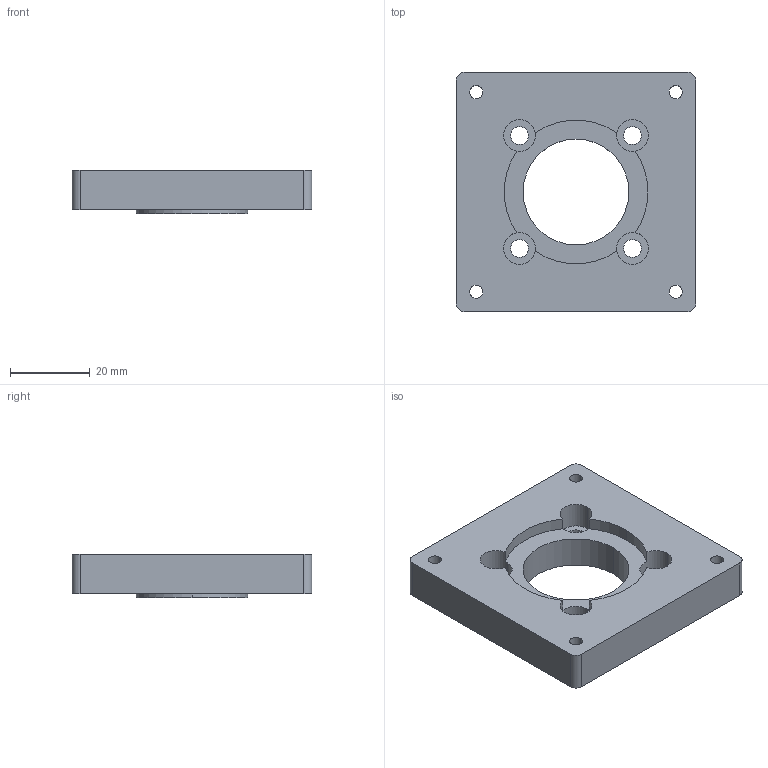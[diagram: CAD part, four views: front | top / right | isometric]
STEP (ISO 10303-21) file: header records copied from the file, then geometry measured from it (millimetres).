
FILE_DESCRIPTION (( 'STEP AP214' ), '1' );
FILE_NAME ('KK-60-F3 60²½½øµç»ú°å.STEP', '2021-05-29T07:29:37', ( '' ), ( '' ), 'SwSTEP 2.0', 'SolidWorks 2017', '' );
FILE_SCHEMA (( 'AUTOMOTIVE_DESIGN' ));
Length unit declared in the file: millimetre
Products named in the file (1): KK-60-F3 60祭輛萇儂啣
Bounding box: 60 x 60 x 11 mm (x, y, z)
Volume: 27339.4 mm3; surface area: 10452.8 mm2
Topology: 1 solids, 1 shells, 49 faces, 135 edges, 90 vertices
Faces by surface type: cylinder 37, plane 12
Entity records: 1769 total; most frequent: DIRECTION 317, CARTESIAN_POINT 275, ORIENTED_EDGE 270, EDGE_CURVE 135, AXIS2_PLACEMENT_3D 132, VERTEX_POINT 90, CIRCLE 82, EDGE_LOOP 69
